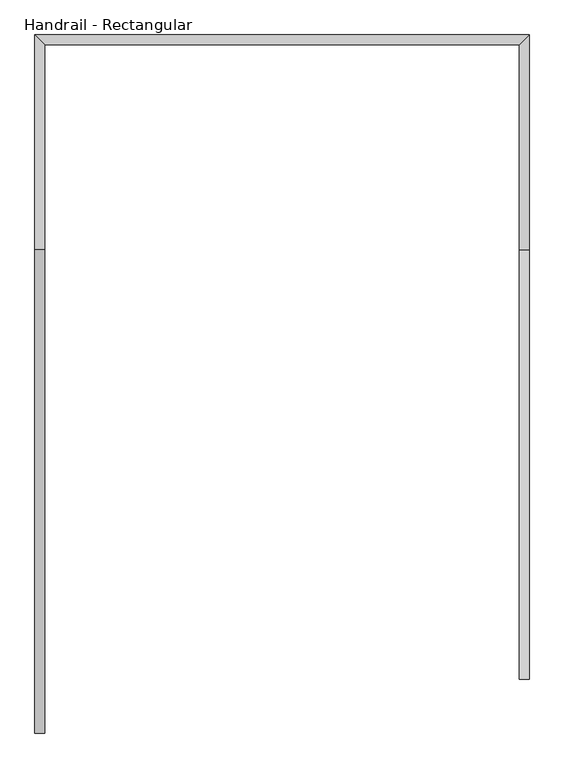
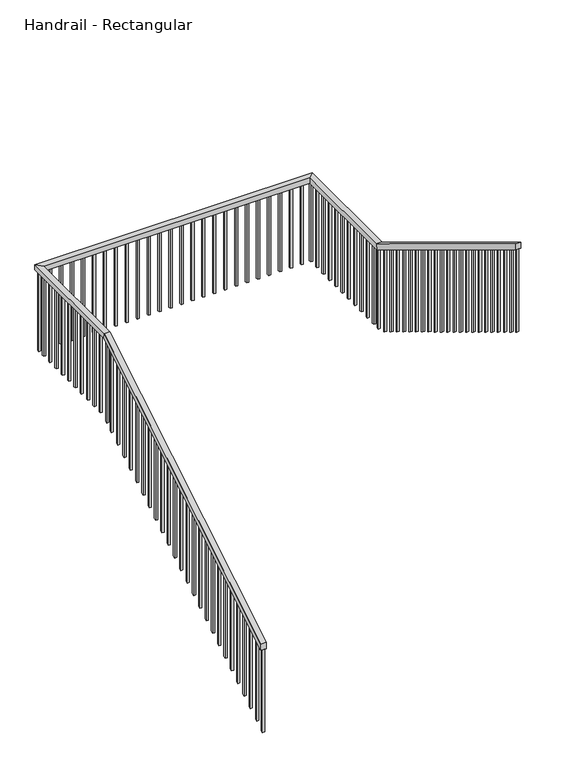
"""IFC4 building model written with IfcOpenShell, lengths in millimetres: railing geometry, Handrail - Rectangular."""

from ifc_helpers import new_model, si_unit, frame, origin, place, context, project, spatial, polyline, outline, extrude, faceted_brep, source, transform, mapped, element, save


def handrail_rectangular_35e503dc(model_context):
    return source(origin(), model_context, "Body", "SolidModel", [
        faceted_brep([(-32745.3668129, -12664.4103492, -1964.2666667), (-32745.3668129, -12664.4103492, -2023.6681269), (-32694.5668129, -12664.4103492, -2023.6681269), (-32694.5668129, -12664.4103492, -1964.2666667), (-32694.5668129, -10149.8103492, -440.2666667), (-32745.3668129, -10149.8103492, -440.2666667), (-32694.5668129, -10135.6179398, -491.0666667), (-32745.3668129, -10135.6179398, -491.0666667), (-32694.5668129, -9083.0103492, -440.2666667), (-32745.3668129, -9032.2103492, -440.2666667), (-32694.5668129, -9083.0103492, -491.0666667), (-32745.3668129, -9032.2103492, -491.0666667), (-30222.3187724, -9083.0103492, -440.2666667), (-30171.5187724, -9032.2103492, -440.2666667), (-30222.3187724, -9083.0103492, -491.0666667), (-30171.5187724, -9032.2103492, -491.0666667), (-30222.3187724, -10149.8103492, -440.2666667), (-30171.5187724, -10149.8103492, -440.2666667), (-30222.3187724, -10164.0027586, -491.0666667), (-30171.5187724, -10164.0027586, -491.0666667), (-30171.5187724, -12385.0103492, 914.4), (-30222.3187724, -12385.0103492, 914.4), (-30222.3187724, -12385.0103492, 854.9985397), (-30171.5187724, -12385.0103492, 854.9985397)], [[[0, 1, 2, 3]], [[0, 3, 4, 5]], [[3, 2, 6, 4]], [[2, 1, 7, 6]], [[1, 0, 5, 7]], [[5, 4, 8, 9]], [[4, 6, 10, 8]], [[6, 7, 11, 10]], [[7, 5, 9, 11]], [[9, 8, 12, 13]], [[8, 10, 14, 12]], [[10, 11, 15, 14]], [[11, 9, 13, 15]], [[13, 12, 16, 17]], [[12, 14, 18, 16]], [[14, 15, 19, 18]], [[15, 13, 17, 19]], [[20, 21, 22, 23]], [[17, 16, 21, 20]], [[16, 18, 22, 21]], [[18, 19, 23, 22]], [[19, 17, 20, 23]]]),
        extrude(outline(polyline([(-12273.8853492, 787.6500549), (-12273.8853492, -24.5673062), (-12292.9353492, -13.0218517), (-12292.9353492, 799.1955094), (-12273.8853492, 787.6500549)])), frame((-30206.4437724, 0.0, 0.0), z_axis=(1.0, 0.0, 0.0), x_axis=(0.0, 1.0, 0.0)), (0.0, 0.0, 1.0), 19.05),
        extrude(outline(polyline([(-12172.2853492, 726.0742973), (-12172.2853492, -86.1430638), (-12191.3353492, -74.5976092), (-12191.3353492, 737.6197519), (-12172.2853492, 726.0742973)])), frame((-30206.4437724, 0.0, 0.0), z_axis=(1.0, 0.0, 0.0), x_axis=(0.0, 1.0, 0.0)), (0.0, 0.0, 1.0), 19.05),
        extrude(outline(polyline([(-12070.6853492, 664.4985397), (-12070.6853492, -147.7188214), (-12089.7353492, -136.1733668), (-12089.7353492, 676.0439943), (-12070.6853492, 664.4985397)])), frame((-30206.4437724, 0.0, 0.0), z_axis=(1.0, 0.0, 0.0), x_axis=(0.0, 1.0, 0.0)), (0.0, 0.0, 1.0), 19.05),
        extrude(outline(polyline([(-11969.0853492, 602.9227822), (-11969.0853492, -209.2945789), (-11988.1353492, -197.7491244), (-11988.1353492, 614.4682367), (-11969.0853492, 602.9227822)])), frame((-30206.4437724, 0.0, 0.0), z_axis=(1.0, 0.0, 0.0), x_axis=(0.0, 1.0, 0.0)), (0.0, 0.0, 1.0), 19.05),
        extrude(outline(polyline([(-11867.4853492, 541.3470246), (-11867.4853492, -270.8703365), (-11886.5353492, -259.324882), (-11886.5353492, 552.8924791), (-11867.4853492, 541.3470246)])), frame((-30206.4437724, 0.0, 0.0), z_axis=(1.0, 0.0, 0.0), x_axis=(0.0, 1.0, 0.0)), (0.0, 0.0, 1.0), 19.05),
        extrude(outline(polyline([(-11765.8853492, 479.771267), (-11765.8853492, -332.4460941), (-11784.9353492, -320.9006396), (-11784.9353492, 491.3167216), (-11765.8853492, 479.771267)])), frame((-30206.4437724, 0.0, 0.0), z_axis=(1.0, 0.0, 0.0), x_axis=(0.0, 1.0, 0.0)), (0.0, 0.0, 1.0), 19.05),
        extrude(outline(polyline([(-11664.2853492, 418.1955094), (-11664.2853492, -394.0218517), (-11683.3353492, -382.4763971), (-11683.3353492, 429.740964), (-11664.2853492, 418.1955094)])), frame((-30206.4437724, 0.0, 0.0), z_axis=(1.0, 0.0, 0.0), x_axis=(0.0, 1.0, 0.0)), (0.0, 0.0, 1.0), 19.05),
        extrude(outline(polyline([(-11562.6853492, 356.6197519), (-11562.6853492, -455.5976092), (-11581.7353492, -444.0521547), (-11581.7353492, 368.1652064), (-11562.6853492, 356.6197519)])), frame((-30206.4437724, 0.0, 0.0), z_axis=(1.0, 0.0, 0.0), x_axis=(0.0, 1.0, 0.0)), (0.0, 0.0, 1.0), 19.05),
        extrude(outline(polyline([(-11461.0853492, 295.0439943), (-11461.0853492, -517.1733668), (-11480.1353492, -505.6279123), (-11480.1353492, 306.5894488), (-11461.0853492, 295.0439943)])), frame((-30206.4437724, 0.0, 0.0), z_axis=(1.0, 0.0, 0.0), x_axis=(0.0, 1.0, 0.0)), (0.0, 0.0, 1.0), 19.05),
        extrude(outline(polyline([(-11359.4853492, 233.4682367), (-11359.4853492, -578.7491244), (-11378.5353492, -567.2036699), (-11378.5353492, 245.0136913), (-11359.4853492, 233.4682367)])), frame((-30206.4437724, 0.0, 0.0), z_axis=(1.0, 0.0, 0.0), x_axis=(0.0, 1.0, 0.0)), (0.0, 0.0, 1.0), 19.05),
        extrude(outline(polyline([(-11257.8853492, 171.8924791), (-11257.8853492, -640.324882), (-11276.9353492, -628.7794274), (-11276.9353492, 183.4379337), (-11257.8853492, 171.8924791)])), frame((-30206.4437724, 0.0, 0.0), z_axis=(1.0, 0.0, 0.0), x_axis=(0.0, 1.0, 0.0)), (0.0, 0.0, 1.0), 19.05),
        extrude(outline(polyline([(-11156.2853492, 110.3167216), (-11156.2853492, -701.9006396), (-11175.3353492, -690.355185), (-11175.3353492, 121.8621761), (-11156.2853492, 110.3167216)])), frame((-30206.4437724, 0.0, 0.0), z_axis=(1.0, 0.0, 0.0), x_axis=(0.0, 1.0, 0.0)), (0.0, 0.0, 1.0), 19.05),
        extrude(outline(polyline([(-11054.6853492, 48.740964), (-11054.6853492, -763.4763971), (-11073.7353492, -751.9309426), (-11073.7353492, 60.2864185), (-11054.6853492, 48.740964)])), frame((-30206.4437724, 0.0, 0.0), z_axis=(1.0, 0.0, 0.0), x_axis=(0.0, 1.0, 0.0)), (0.0, 0.0, 1.0), 19.05),
        extrude(outline(polyline([(-10953.0853492, -12.8347936), (-10953.0853492, -825.0521547), (-10972.1353492, -813.5067002), (-10972.1353492, -1.289339), (-10953.0853492, -12.8347936)])), frame((-30206.4437724, 0.0, 0.0), z_axis=(1.0, 0.0, 0.0), x_axis=(0.0, 1.0, 0.0)), (0.0, 0.0, 1.0), 19.05),
        extrude(outline(polyline([(-10851.4853492, -74.4105512), (-10851.4853492, -886.6279123), (-10870.5353492, -875.0824577), (-10870.5353492, -62.8650966), (-10851.4853492, -74.4105512)])), frame((-30206.4437724, 0.0, 0.0), z_axis=(1.0, 0.0, 0.0), x_axis=(0.0, 1.0, 0.0)), (0.0, 0.0, 1.0), 19.05),
        extrude(outline(polyline([(-10749.8853492, -135.9863087), (-10749.8853492, -948.2036699), (-10768.9353492, -936.6582153), (-10768.9353492, -124.4408542), (-10749.8853492, -135.9863087)])), frame((-30206.4437724, 0.0, 0.0), z_axis=(1.0, 0.0, 0.0), x_axis=(0.0, 1.0, 0.0)), (0.0, 0.0, 1.0), 19.05),
        extrude(outline(polyline([(-10648.2853492, -197.5620663), (-10648.2853492, -1009.7794274), (-10667.3353492, -998.2339729), (-10667.3353492, -186.0166118), (-10648.2853492, -197.5620663)])), frame((-30206.4437724, 0.0, 0.0), z_axis=(1.0, 0.0, 0.0), x_axis=(0.0, 1.0, 0.0)), (0.0, 0.0, 1.0), 19.05),
        extrude(outline(polyline([(-10546.6853492, -259.1378239), (-10546.6853492, -1071.355185), (-10565.7353492, -1059.8097305), (-10565.7353492, -247.5923693), (-10546.6853492, -259.1378239)])), frame((-30206.4437724, 0.0, 0.0), z_axis=(1.0, 0.0, 0.0), x_axis=(0.0, 1.0, 0.0)), (0.0, 0.0, 1.0), 19.05),
        extrude(outline(polyline([(-10445.0853492, -320.7135815), (-10445.0853492, -1132.9309426), (-10464.1353492, -1121.385488), (-10464.1353492, -309.1681269), (-10445.0853492, -320.7135815)])), frame((-30206.4437724, 0.0, 0.0), z_axis=(1.0, 0.0, 0.0), x_axis=(0.0, 1.0, 0.0)), (0.0, 0.0, 1.0), 19.05),
        extrude(outline(polyline([(-10343.4853492, -382.289339), (-10343.4853492, -1194.5067002), (-10362.5353492, -1182.9612456), (-10362.5353492, -370.7438845), (-10343.4853492, -382.289339)])), frame((-30206.4437724, 0.0, 0.0), z_axis=(1.0, 0.0, 0.0), x_axis=(0.0, 1.0, 0.0)), (0.0, 0.0, 1.0), 19.05),
        extrude(outline(polyline([(-10241.8853492, -443.8650966), (-10241.8853492, -1256.0824577), (-10260.9353492, -1244.5370032), (-10260.9353492, -432.3196421), (-10241.8853492, -443.8650966)])), frame((-30206.4437724, 0.0, 0.0), z_axis=(1.0, 0.0, 0.0), x_axis=(0.0, 1.0, 0.0)), (0.0, 0.0, 1.0), 19.05),
        extrude(outline(polyline([(-30187.3937724, -10064.0853492), (-30187.3937724, -10083.1353492), (-30206.4437724, -10083.1353492), (-30206.4437724, -10064.0853492), (-30187.3937724, -10064.0853492)])), frame((0.0, 0.0, -1278.4666667), z_axis=(0.0, 0.0, 1.0), x_axis=(1.0, 0.0, 0.0)), (0.0, 0.0, 1.0), 787.4),
        extrude(outline(polyline([(-30187.3937724, -9962.4853492), (-30187.3937724, -9981.5353492), (-30206.4437724, -9981.5353492), (-30206.4437724, -9962.4853492), (-30187.3937724, -9962.4853492)])), frame((0.0, 0.0, -1278.4666667), z_axis=(0.0, 0.0, 1.0), x_axis=(1.0, 0.0, 0.0)), (0.0, 0.0, 1.0), 787.4),
        extrude(outline(polyline([(-30187.3937724, -9860.8853492), (-30187.3937724, -9879.9353492), (-30206.4437724, -9879.9353492), (-30206.4437724, -9860.8853492), (-30187.3937724, -9860.8853492)])), frame((0.0, 0.0, -1278.4666667), z_axis=(0.0, 0.0, 1.0), x_axis=(1.0, 0.0, 0.0)), (0.0, 0.0, 1.0), 787.4),
        extrude(outline(polyline([(-30187.3937724, -9759.2853492), (-30187.3937724, -9778.3353492), (-30206.4437724, -9778.3353492), (-30206.4437724, -9759.2853492), (-30187.3937724, -9759.2853492)])), frame((0.0, 0.0, -1278.4666667), z_axis=(0.0, 0.0, 1.0), x_axis=(1.0, 0.0, 0.0)), (0.0, 0.0, 1.0), 787.4),
        extrude(outline(polyline([(-30187.3937724, -9657.6853492), (-30187.3937724, -9676.7353492), (-30206.4437724, -9676.7353492), (-30206.4437724, -9657.6853492), (-30187.3937724, -9657.6853492)])), frame((0.0, 0.0, -1278.4666667), z_axis=(0.0, 0.0, 1.0), x_axis=(1.0, 0.0, 0.0)), (0.0, 0.0, 1.0), 787.4),
        extrude(outline(polyline([(-30187.3937724, -9556.0853492), (-30187.3937724, -9575.1353492), (-30206.4437724, -9575.1353492), (-30206.4437724, -9556.0853492), (-30187.3937724, -9556.0853492)])), frame((0.0, 0.0, -1278.4666667), z_axis=(0.0, 0.0, 1.0), x_axis=(1.0, 0.0, 0.0)), (0.0, 0.0, 1.0), 787.4),
        extrude(outline(polyline([(-30187.3937724, -9454.4853492), (-30187.3937724, -9473.5353492), (-30206.4437724, -9473.5353492), (-30206.4437724, -9454.4853492), (-30187.3937724, -9454.4853492)])), frame((0.0, 0.0, -1278.4666667), z_axis=(0.0, 0.0, 1.0), x_axis=(1.0, 0.0, 0.0)), (0.0, 0.0, 1.0), 787.4),
        extrude(outline(polyline([(-30187.3937724, -9352.8853492), (-30187.3937724, -9371.9353492), (-30206.4437724, -9371.9353492), (-30206.4437724, -9352.8853492), (-30187.3937724, -9352.8853492)])), frame((0.0, 0.0, -1278.4666667), z_axis=(0.0, 0.0, 1.0), x_axis=(1.0, 0.0, 0.0)), (0.0, 0.0, 1.0), 787.4),
        extrude(outline(polyline([(-30187.3937724, -9251.2853492), (-30187.3937724, -9270.3353492), (-30206.4437724, -9270.3353492), (-30206.4437724, -9251.2853492), (-30187.3937724, -9251.2853492)])), frame((0.0, 0.0, -1278.4666667), z_axis=(0.0, 0.0, 1.0), x_axis=(1.0, 0.0, 0.0)), (0.0, 0.0, 1.0), 787.4),
        extrude(outline(polyline([(-30187.3937724, -9149.6853492), (-30187.3937724, -9168.7353492), (-30206.4437724, -9168.7353492), (-30206.4437724, -9149.6853492), (-30187.3937724, -9149.6853492)])), frame((0.0, 0.0, -1278.4666667), z_axis=(0.0, 0.0, 1.0), x_axis=(1.0, 0.0, 0.0)), (0.0, 0.0, 1.0), 787.4),
        extrude(outline(polyline([(-30291.0918129, -9048.0853492), (-30272.0418129, -9048.0853492), (-30272.0418129, -9067.1353492), (-30291.0918129, -9067.1353492), (-30291.0918129, -9048.0853492)])), frame((0.0, 0.0, -1278.4666667), z_axis=(0.0, 0.0, 1.0), x_axis=(1.0, 0.0, 0.0)), (0.0, 0.0, 1.0), 787.4),
        extrude(outline(polyline([(-30392.6918129, -9048.0853492), (-30373.6418129, -9048.0853492), (-30373.6418129, -9067.1353492), (-30392.6918129, -9067.1353492), (-30392.6918129, -9048.0853492)])), frame((0.0, 0.0, -1278.4666667), z_axis=(0.0, 0.0, 1.0), x_axis=(1.0, 0.0, 0.0)), (0.0, 0.0, 1.0), 787.4),
        extrude(outline(polyline([(-30494.2918129, -9048.0853492), (-30475.2418129, -9048.0853492), (-30475.2418129, -9067.1353492), (-30494.2918129, -9067.1353492), (-30494.2918129, -9048.0853492)])), frame((0.0, 0.0, -1278.4666667), z_axis=(0.0, 0.0, 1.0), x_axis=(1.0, 0.0, 0.0)), (0.0, 0.0, 1.0), 787.4),
        extrude(outline(polyline([(-30595.8918129, -9048.0853492), (-30576.8418129, -9048.0853492), (-30576.8418129, -9067.1353492), (-30595.8918129, -9067.1353492), (-30595.8918129, -9048.0853492)])), frame((0.0, 0.0, -1278.4666667), z_axis=(0.0, 0.0, 1.0), x_axis=(1.0, 0.0, 0.0)), (0.0, 0.0, 1.0), 787.4),
        extrude(outline(polyline([(-30697.4918129, -9048.0853492), (-30678.4418129, -9048.0853492), (-30678.4418129, -9067.1353492), (-30697.4918129, -9067.1353492), (-30697.4918129, -9048.0853492)])), frame((0.0, 0.0, -1278.4666667), z_axis=(0.0, 0.0, 1.0), x_axis=(1.0, 0.0, 0.0)), (0.0, 0.0, 1.0), 787.4),
        extrude(outline(polyline([(-30799.0918129, -9048.0853492), (-30780.0418129, -9048.0853492), (-30780.0418129, -9067.1353492), (-30799.0918129, -9067.1353492), (-30799.0918129, -9048.0853492)])), frame((0.0, 0.0, -1278.4666667), z_axis=(0.0, 0.0, 1.0), x_axis=(1.0, 0.0, 0.0)), (0.0, 0.0, 1.0), 787.4),
        extrude(outline(polyline([(-30900.6918129, -9048.0853492), (-30881.6418129, -9048.0853492), (-30881.6418129, -9067.1353492), (-30900.6918129, -9067.1353492), (-30900.6918129, -9048.0853492)])), frame((0.0, 0.0, -1278.4666667), z_axis=(0.0, 0.0, 1.0), x_axis=(1.0, 0.0, 0.0)), (0.0, 0.0, 1.0), 787.4),
        extrude(outline(polyline([(-31002.2918129, -9048.0853492), (-30983.2418129, -9048.0853492), (-30983.2418129, -9067.1353492), (-31002.2918129, -9067.1353492), (-31002.2918129, -9048.0853492)])), frame((0.0, 0.0, -1278.4666667), z_axis=(0.0, 0.0, 1.0), x_axis=(1.0, 0.0, 0.0)), (0.0, 0.0, 1.0), 787.4),
        extrude(outline(polyline([(-31103.8918129, -9048.0853492), (-31084.8418129, -9048.0853492), (-31084.8418129, -9067.1353492), (-31103.8918129, -9067.1353492), (-31103.8918129, -9048.0853492)])), frame((0.0, 0.0, -1278.4666667), z_axis=(0.0, 0.0, 1.0), x_axis=(1.0, 0.0, 0.0)), (0.0, 0.0, 1.0), 787.4),
        extrude(outline(polyline([(-31205.4918129, -9048.0853492), (-31186.4418129, -9048.0853492), (-31186.4418129, -9067.1353492), (-31205.4918129, -9067.1353492), (-31205.4918129, -9048.0853492)])), frame((0.0, 0.0, -1278.4666667), z_axis=(0.0, 0.0, 1.0), x_axis=(1.0, 0.0, 0.0)), (0.0, 0.0, 1.0), 787.4),
        extrude(outline(polyline([(-31307.0918129, -9048.0853492), (-31288.0418129, -9048.0853492), (-31288.0418129, -9067.1353492), (-31307.0918129, -9067.1353492), (-31307.0918129, -9048.0853492)])), frame((0.0, 0.0, -1278.4666667), z_axis=(0.0, 0.0, 1.0), x_axis=(1.0, 0.0, 0.0)), (0.0, 0.0, 1.0), 787.4),
        extrude(outline(polyline([(-31408.6918129, -9048.0853492), (-31389.6418129, -9048.0853492), (-31389.6418129, -9067.1353492), (-31408.6918129, -9067.1353492), (-31408.6918129, -9048.0853492)])), frame((0.0, 0.0, -1278.4666667), z_axis=(0.0, 0.0, 1.0), x_axis=(1.0, 0.0, 0.0)), (0.0, 0.0, 1.0), 787.4),
        extrude(outline(polyline([(-31510.2918129, -9048.0853492), (-31491.2418129, -9048.0853492), (-31491.2418129, -9067.1353492), (-31510.2918129, -9067.1353492), (-31510.2918129, -9048.0853492)])), frame((0.0, 0.0, -1278.4666667), z_axis=(0.0, 0.0, 1.0), x_axis=(1.0, 0.0, 0.0)), (0.0, 0.0, 1.0), 787.4),
        extrude(outline(polyline([(-31611.8918129, -9048.0853492), (-31592.8418129, -9048.0853492), (-31592.8418129, -9067.1353492), (-31611.8918129, -9067.1353492), (-31611.8918129, -9048.0853492)])), frame((0.0, 0.0, -1278.4666667), z_axis=(0.0, 0.0, 1.0), x_axis=(1.0, 0.0, 0.0)), (0.0, 0.0, 1.0), 787.4),
        extrude(outline(polyline([(-31713.4918129, -9048.0853492), (-31694.4418129, -9048.0853492), (-31694.4418129, -9067.1353492), (-31713.4918129, -9067.1353492), (-31713.4918129, -9048.0853492)])), frame((0.0, 0.0, -1278.4666667), z_axis=(0.0, 0.0, 1.0), x_axis=(1.0, 0.0, 0.0)), (0.0, 0.0, 1.0), 787.4),
        extrude(outline(polyline([(-31815.0918129, -9048.0853492), (-31796.0418129, -9048.0853492), (-31796.0418129, -9067.1353492), (-31815.0918129, -9067.1353492), (-31815.0918129, -9048.0853492)])), frame((0.0, 0.0, -1278.4666667), z_axis=(0.0, 0.0, 1.0), x_axis=(1.0, 0.0, 0.0)), (0.0, 0.0, 1.0), 787.4),
        extrude(outline(polyline([(-31916.6918129, -9048.0853492), (-31897.6418129, -9048.0853492), (-31897.6418129, -9067.1353492), (-31916.6918129, -9067.1353492), (-31916.6918129, -9048.0853492)])), frame((0.0, 0.0, -1278.4666667), z_axis=(0.0, 0.0, 1.0), x_axis=(1.0, 0.0, 0.0)), (0.0, 0.0, 1.0), 787.4),
        extrude(outline(polyline([(-32018.2918129, -9048.0853492), (-31999.2418129, -9048.0853492), (-31999.2418129, -9067.1353492), (-32018.2918129, -9067.1353492), (-32018.2918129, -9048.0853492)])), frame((0.0, 0.0, -1278.4666667), z_axis=(0.0, 0.0, 1.0), x_axis=(1.0, 0.0, 0.0)), (0.0, 0.0, 1.0), 787.4),
        extrude(outline(polyline([(-32119.8918129, -9048.0853492), (-32100.8418129, -9048.0853492), (-32100.8418129, -9067.1353492), (-32119.8918129, -9067.1353492), (-32119.8918129, -9048.0853492)])), frame((0.0, 0.0, -1278.4666667), z_axis=(0.0, 0.0, 1.0), x_axis=(1.0, 0.0, 0.0)), (0.0, 0.0, 1.0), 787.4),
        extrude(outline(polyline([(-32221.4918129, -9048.0853492), (-32202.4418129, -9048.0853492), (-32202.4418129, -9067.1353492), (-32221.4918129, -9067.1353492), (-32221.4918129, -9048.0853492)])), frame((0.0, 0.0, -1278.4666667), z_axis=(0.0, 0.0, 1.0), x_axis=(1.0, 0.0, 0.0)), (0.0, 0.0, 1.0), 787.4),
        extrude(outline(polyline([(-32323.0918129, -9048.0853492), (-32304.0418129, -9048.0853492), (-32304.0418129, -9067.1353492), (-32323.0918129, -9067.1353492), (-32323.0918129, -9048.0853492)])), frame((0.0, 0.0, -1278.4666667), z_axis=(0.0, 0.0, 1.0), x_axis=(1.0, 0.0, 0.0)), (0.0, 0.0, 1.0), 787.4),
        extrude(outline(polyline([(-32424.6918129, -9048.0853492), (-32405.6418129, -9048.0853492), (-32405.6418129, -9067.1353492), (-32424.6918129, -9067.1353492), (-32424.6918129, -9048.0853492)])), frame((0.0, 0.0, -1278.4666667), z_axis=(0.0, 0.0, 1.0), x_axis=(1.0, 0.0, 0.0)), (0.0, 0.0, 1.0), 787.4),
        extrude(outline(polyline([(-32526.2918129, -9048.0853492), (-32507.2418129, -9048.0853492), (-32507.2418129, -9067.1353492), (-32526.2918129, -9067.1353492), (-32526.2918129, -9048.0853492)])), frame((0.0, 0.0, -1278.4666667), z_axis=(0.0, 0.0, 1.0), x_axis=(1.0, 0.0, 0.0)), (0.0, 0.0, 1.0), 787.4),
        extrude(outline(polyline([(-32627.8918129, -9048.0853492), (-32608.8418129, -9048.0853492), (-32608.8418129, -9067.1353492), (-32627.8918129, -9067.1353492), (-32627.8918129, -9048.0853492)])), frame((0.0, 0.0, -1278.4666667), z_axis=(0.0, 0.0, 1.0), x_axis=(1.0, 0.0, 0.0)), (0.0, 0.0, 1.0), 787.4),
        extrude(outline(polyline([(-32729.4918129, -9143.3353492), (-32729.4918129, -9124.2853492), (-32710.4418129, -9124.2853492), (-32710.4418129, -9143.3353492), (-32729.4918129, -9143.3353492)])), frame((0.0, 0.0, -1278.4666667), z_axis=(0.0, 0.0, 1.0), x_axis=(1.0, 0.0, 0.0)), (0.0, 0.0, 1.0), 787.4),
        extrude(outline(polyline([(-32729.4918129, -9244.9353492), (-32729.4918129, -9225.8853492), (-32710.4418129, -9225.8853492), (-32710.4418129, -9244.9353492), (-32729.4918129, -9244.9353492)])), frame((0.0, 0.0, -1278.4666667), z_axis=(0.0, 0.0, 1.0), x_axis=(1.0, 0.0, 0.0)), (0.0, 0.0, 1.0), 787.4),
        extrude(outline(polyline([(-32729.4918129, -9346.5353492), (-32729.4918129, -9327.4853492), (-32710.4418129, -9327.4853492), (-32710.4418129, -9346.5353492), (-32729.4918129, -9346.5353492)])), frame((0.0, 0.0, -1278.4666667), z_axis=(0.0, 0.0, 1.0), x_axis=(1.0, 0.0, 0.0)), (0.0, 0.0, 1.0), 787.4),
        extrude(outline(polyline([(-32729.4918129, -9448.1353492), (-32729.4918129, -9429.0853492), (-32710.4418129, -9429.0853492), (-32710.4418129, -9448.1353492), (-32729.4918129, -9448.1353492)])), frame((0.0, 0.0, -1278.4666667), z_axis=(0.0, 0.0, 1.0), x_axis=(1.0, 0.0, 0.0)), (0.0, 0.0, 1.0), 787.4),
        extrude(outline(polyline([(-32729.4918129, -9549.7353492), (-32729.4918129, -9530.6853492), (-32710.4418129, -9530.6853492), (-32710.4418129, -9549.7353492), (-32729.4918129, -9549.7353492)])), frame((0.0, 0.0, -1278.4666667), z_axis=(0.0, 0.0, 1.0), x_axis=(1.0, 0.0, 0.0)), (0.0, 0.0, 1.0), 787.4),
        extrude(outline(polyline([(-32729.4918129, -9651.3353492), (-32729.4918129, -9632.2853492), (-32710.4418129, -9632.2853492), (-32710.4418129, -9651.3353492), (-32729.4918129, -9651.3353492)])), frame((0.0, 0.0, -1278.4666667), z_axis=(0.0, 0.0, 1.0), x_axis=(1.0, 0.0, 0.0)), (0.0, 0.0, 1.0), 787.4),
        extrude(outline(polyline([(-32729.4918129, -9752.9353492), (-32729.4918129, -9733.8853492), (-32710.4418129, -9733.8853492), (-32710.4418129, -9752.9353492), (-32729.4918129, -9752.9353492)])), frame((0.0, 0.0, -1278.4666667), z_axis=(0.0, 0.0, 1.0), x_axis=(1.0, 0.0, 0.0)), (0.0, 0.0, 1.0), 787.4),
        extrude(outline(polyline([(-32729.4918129, -9854.5353492), (-32729.4918129, -9835.4853492), (-32710.4418129, -9835.4853492), (-32710.4418129, -9854.5353492), (-32729.4918129, -9854.5353492)])), frame((0.0, 0.0, -1278.4666667), z_axis=(0.0, 0.0, 1.0), x_axis=(1.0, 0.0, 0.0)), (0.0, 0.0, 1.0), 787.4),
        extrude(outline(polyline([(-32729.4918129, -9956.1353492), (-32729.4918129, -9937.0853492), (-32710.4418129, -9937.0853492), (-32710.4418129, -9956.1353492), (-32729.4918129, -9956.1353492)])), frame((0.0, 0.0, -1278.4666667), z_axis=(0.0, 0.0, 1.0), x_axis=(1.0, 0.0, 0.0)), (0.0, 0.0, 1.0), 787.4),
        extrude(outline(polyline([(-32729.4918129, -10057.7353492), (-32729.4918129, -10038.6853492), (-32710.4418129, -10038.6853492), (-32710.4418129, -10057.7353492), (-32729.4918129, -10057.7353492)])), frame((0.0, 0.0, -1278.4666667), z_axis=(0.0, 0.0, 1.0), x_axis=(1.0, 0.0, 0.0)), (0.0, 0.0, 1.0), 787.4),
        extrude(outline(polyline([(-10216.4853492, -540.0772178), (-10216.4853492, -1352.2945789), (-10235.5353492, -1363.8400335), (-10235.5353492, -551.6226724), (-10216.4853492, -540.0772178)])), frame((-32729.4918129, 0.0, 0.0), z_axis=(1.0, 0.0, 0.0), x_axis=(0.0, 1.0, 0.0)), (0.0, 0.0, 1.0), 19.05),
        extrude(outline(polyline([(-10318.0853492, -601.6529754), (-10318.0853492, -1413.8703365), (-10337.1353492, -1425.4157911), (-10337.1353492, -613.19843), (-10318.0853492, -601.6529754)])), frame((-32729.4918129, 0.0, 0.0), z_axis=(1.0, 0.0, 0.0), x_axis=(0.0, 1.0, 0.0)), (0.0, 0.0, 1.0), 19.05),
        extrude(outline(polyline([(-10419.6853492, -663.228733), (-10419.6853492, -1475.4460941), (-10438.7353492, -1486.9915486), (-10438.7353492, -674.7741875), (-10419.6853492, -663.228733)])), frame((-32729.4918129, 0.0, 0.0), z_axis=(1.0, 0.0, 0.0), x_axis=(0.0, 1.0, 0.0)), (0.0, 0.0, 1.0), 19.05),
        extrude(outline(polyline([(-10521.2853492, -724.8044906), (-10521.2853492, -1537.0218517), (-10540.3353492, -1548.5673062), (-10540.3353492, -736.3499451), (-10521.2853492, -724.8044906)])), frame((-32729.4918129, 0.0, 0.0), z_axis=(1.0, 0.0, 0.0), x_axis=(0.0, 1.0, 0.0)), (0.0, 0.0, 1.0), 19.05),
        extrude(outline(polyline([(-10622.8853492, -786.3802481), (-10622.8853492, -1598.5976092), (-10641.9353492, -1610.1430638), (-10641.9353492, -797.9257027), (-10622.8853492, -786.3802481)])), frame((-32729.4918129, 0.0, 0.0), z_axis=(1.0, 0.0, 0.0), x_axis=(0.0, 1.0, 0.0)), (0.0, 0.0, 1.0), 19.05),
        extrude(outline(polyline([(-10724.4853492, -847.9560057), (-10724.4853492, -1660.1733668), (-10743.5353492, -1671.7188214), (-10743.5353492, -859.5014603), (-10724.4853492, -847.9560057)])), frame((-32729.4918129, 0.0, 0.0), z_axis=(1.0, 0.0, 0.0), x_axis=(0.0, 1.0, 0.0)), (0.0, 0.0, 1.0), 19.05),
        extrude(outline(polyline([(-10826.0853492, -909.5317633), (-10826.0853492, -1721.7491244), (-10845.1353492, -1733.2945789), (-10845.1353492, -921.0772178), (-10826.0853492, -909.5317633)])), frame((-32729.4918129, 0.0, 0.0), z_axis=(1.0, 0.0, 0.0), x_axis=(0.0, 1.0, 0.0)), (0.0, 0.0, 1.0), 19.05),
        extrude(outline(polyline([(-10927.6853492, -971.1075209), (-10927.6853492, -1783.324882), (-10946.7353492, -1794.8703365), (-10946.7353492, -982.6529754), (-10927.6853492, -971.1075209)])), frame((-32729.4918129, 0.0, 0.0), z_axis=(1.0, 0.0, 0.0), x_axis=(0.0, 1.0, 0.0)), (0.0, 0.0, 1.0), 19.05),
        extrude(outline(polyline([(-11029.2853492, -1032.6832784), (-11029.2853492, -1844.9006396), (-11048.3353492, -1856.4460941), (-11048.3353492, -1044.228733), (-11029.2853492, -1032.6832784)])), frame((-32729.4918129, 0.0, 0.0), z_axis=(1.0, 0.0, 0.0), x_axis=(0.0, 1.0, 0.0)), (0.0, 0.0, 1.0), 19.05),
        extrude(outline(polyline([(-11130.8853492, -1094.259036), (-11130.8853492, -1906.4763971), (-11149.9353492, -1918.0218517), (-11149.9353492, -1105.8044906), (-11130.8853492, -1094.259036)])), frame((-32729.4918129, 0.0, 0.0), z_axis=(1.0, 0.0, 0.0), x_axis=(0.0, 1.0, 0.0)), (0.0, 0.0, 1.0), 19.05),
        extrude(outline(polyline([(-11232.4853492, -1155.8347936), (-11232.4853492, -1968.0521547), (-11251.5353492, -1979.5976092), (-11251.5353492, -1167.3802481), (-11232.4853492, -1155.8347936)])), frame((-32729.4918129, 0.0, 0.0), z_axis=(1.0, 0.0, 0.0), x_axis=(0.0, 1.0, 0.0)), (0.0, 0.0, 1.0), 19.05),
        extrude(outline(polyline([(-11334.0853492, -1217.4105512), (-11334.0853492, -2029.6279123), (-11353.1353492, -2041.1733668), (-11353.1353492, -1228.9560057), (-11334.0853492, -1217.4105512)])), frame((-32729.4918129, 0.0, 0.0), z_axis=(1.0, 0.0, 0.0), x_axis=(0.0, 1.0, 0.0)), (0.0, 0.0, 1.0), 19.05),
        extrude(outline(polyline([(-11435.6853492, -1278.9863087), (-11435.6853492, -2091.2036699), (-11454.7353492, -2102.7491244), (-11454.7353492, -1290.5317633), (-11435.6853492, -1278.9863087)])), frame((-32729.4918129, 0.0, 0.0), z_axis=(1.0, 0.0, 0.0), x_axis=(0.0, 1.0, 0.0)), (0.0, 0.0, 1.0), 19.05),
        extrude(outline(polyline([(-11537.2853492, -1340.5620663), (-11537.2853492, -2152.7794274), (-11556.3353492, -2164.324882), (-11556.3353492, -1352.1075209), (-11537.2853492, -1340.5620663)])), frame((-32729.4918129, 0.0, 0.0), z_axis=(1.0, 0.0, 0.0), x_axis=(0.0, 1.0, 0.0)), (0.0, 0.0, 1.0), 19.05),
        extrude(outline(polyline([(-11638.8853492, -1402.1378239), (-11638.8853492, -2214.355185), (-11657.9353492, -2225.9006396), (-11657.9353492, -1413.6832784), (-11638.8853492, -1402.1378239)])), frame((-32729.4918129, 0.0, 0.0), z_axis=(1.0, 0.0, 0.0), x_axis=(0.0, 1.0, 0.0)), (0.0, 0.0, 1.0), 19.05),
        extrude(outline(polyline([(-11740.4853492, -1463.7135815), (-11740.4853492, -2275.9309426), (-11759.5353492, -2287.4763971), (-11759.5353492, -1475.259036), (-11740.4853492, -1463.7135815)])), frame((-32729.4918129, 0.0, 0.0), z_axis=(1.0, 0.0, 0.0), x_axis=(0.0, 1.0, 0.0)), (0.0, 0.0, 1.0), 19.05),
        extrude(outline(polyline([(-11842.0853492, -1525.289339), (-11842.0853492, -2337.5067002), (-11861.1353492, -2349.0521547), (-11861.1353492, -1536.8347936), (-11842.0853492, -1525.289339)])), frame((-32729.4918129, 0.0, 0.0), z_axis=(1.0, 0.0, 0.0), x_axis=(0.0, 1.0, 0.0)), (0.0, 0.0, 1.0), 19.05),
        extrude(outline(polyline([(-11943.6853492, -1586.8650966), (-11943.6853492, -2399.0824577), (-11962.7353492, -2410.6279123), (-11962.7353492, -1598.4105512), (-11943.6853492, -1586.8650966)])), frame((-32729.4918129, 0.0, 0.0), z_axis=(1.0, 0.0, 0.0), x_axis=(0.0, 1.0, 0.0)), (0.0, 0.0, 1.0), 19.05),
        extrude(outline(polyline([(-12045.2853492, -1648.4408542), (-12045.2853492, -2460.6582153), (-12064.3353492, -2472.2036699), (-12064.3353492, -1659.9863087), (-12045.2853492, -1648.4408542)])), frame((-32729.4918129, 0.0, 0.0), z_axis=(1.0, 0.0, 0.0), x_axis=(0.0, 1.0, 0.0)), (0.0, 0.0, 1.0), 19.05),
        extrude(outline(polyline([(-12146.8853492, -1710.0166118), (-12146.8853492, -2522.2339729), (-12165.9353492, -2533.7794274), (-12165.9353492, -1721.5620663), (-12146.8853492, -1710.0166118)])), frame((-32729.4918129, 0.0, 0.0), z_axis=(1.0, 0.0, 0.0), x_axis=(0.0, 1.0, 0.0)), (0.0, 0.0, 1.0), 19.05),
        extrude(outline(polyline([(-12248.4853492, -1771.5923693), (-12248.4853492, -2583.8097305), (-12267.5353492, -2595.355185), (-12267.5353492, -1783.1378239), (-12248.4853492, -1771.5923693)])), frame((-32729.4918129, 0.0, 0.0), z_axis=(1.0, 0.0, 0.0), x_axis=(0.0, 1.0, 0.0)), (0.0, 0.0, 1.0), 19.05),
        extrude(outline(polyline([(-12350.0853492, -1833.1681269), (-12350.0853492, -2645.385488), (-12369.1353492, -2656.9309426), (-12369.1353492, -1844.7135815), (-12350.0853492, -1833.1681269)])), frame((-32729.4918129, 0.0, 0.0), z_axis=(1.0, 0.0, 0.0), x_axis=(0.0, 1.0, 0.0)), (0.0, 0.0, 1.0), 19.05),
        extrude(outline(polyline([(-12451.6853492, -1894.7438845), (-12451.6853492, -2706.9612456), (-12470.7353492, -2718.5067002), (-12470.7353492, -1906.289339), (-12451.6853492, -1894.7438845)])), frame((-32729.4918129, 0.0, 0.0), z_axis=(1.0, 0.0, 0.0), x_axis=(0.0, 1.0, 0.0)), (0.0, 0.0, 1.0), 19.05),
        extrude(outline(polyline([(-12553.2853492, -1956.3196421), (-12553.2853492, -2768.5370032), (-12572.3353492, -2780.0824577), (-12572.3353492, -1967.8650966), (-12553.2853492, -1956.3196421)])), frame((-32729.4918129, 0.0, 0.0), z_axis=(1.0, 0.0, 0.0), x_axis=(0.0, 1.0, 0.0)), (0.0, 0.0, 1.0), 19.05),
        extrude(outline(polyline([(-30187.3937724, -10140.2853492), (-30187.3937724, -10159.3353492), (-30206.4437724, -10159.3353492), (-30206.4437724, -10140.2853492), (-30187.3937724, -10140.2853492)])), frame((0.0, 0.0, -1278.4666667), z_axis=(0.0, 0.0, 1.0), x_axis=(1.0, 0.0, 0.0)), (0.0, 0.0, 1.0), 787.4),
        extrude(outline(polyline([(-30206.4437724, -9048.0853492), (-30187.3937724, -9048.0853492), (-30187.3937724, -9067.1353492), (-30206.4437724, -9067.1353492), (-30206.4437724, -9048.0853492)])), frame((0.0, 0.0, -1278.4666667), z_axis=(0.0, 0.0, 1.0), x_axis=(1.0, 0.0, 0.0)), (0.0, 0.0, 1.0), 787.4),
        extrude(outline(polyline([(-32729.4918129, -9067.1353492), (-32729.4918129, -9048.0853492), (-32710.4418129, -9048.0853492), (-32710.4418129, -9067.1353492), (-32729.4918129, -9067.1353492)])), frame((0.0, 0.0, -1278.4666667), z_axis=(0.0, 0.0, 1.0), x_axis=(1.0, 0.0, 0.0)), (0.0, 0.0, 1.0), 787.4),
        extrude(outline(polyline([(-10140.2853492, -491.0666667), (-10140.2853492, -1306.1127608), (-10159.3353492, -1317.6582153), (-10159.3353492, -491.0666667), (-10140.2853492, -491.0666667)])), frame((-32729.4918129, 0.0, 0.0), z_axis=(1.0, 0.0, 0.0), x_axis=(0.0, 1.0, 0.0)), (0.0, 0.0, 1.0), 19.05),
        extrude(outline(polyline([(-12365.9603492, 843.4530852), (-12365.9603492, 31.2357241), (-12385.0103492, 42.7811786), (-12385.0103492, 854.9985397), (-12365.9603492, 843.4530852)])), frame((-30206.4437724, 0.0, 0.0), z_axis=(1.0, 0.0, 0.0), x_axis=(0.0, 1.0, 0.0)), (0.0, 0.0, 1.0), 19.05),
        extrude(outline(polyline([(-12645.3603492, -2012.1226724), (-12645.3603492, -2824.3400335), (-12664.4103492, -2835.885488), (-12664.4103492, -2023.6681269), (-12645.3603492, -2012.1226724)])), frame((-32729.4918129, 0.0, 0.0), z_axis=(1.0, 0.0, 0.0), x_axis=(0.0, 1.0, 0.0)), (0.0, 0.0, 1.0), 19.05),
    ])


if __name__ == "__main__":
    model = new_model("IFC4")
    model_context = context("Model", 3, world=origin())
    ifc_project = project(units=[si_unit("LENGTHUNIT", "METRE", prefix="MILLI")], contexts=[model_context])
    site = spatial("IfcSite", under=ifc_project)
    building = spatial("IfcBuilding", under=site)
    placement = place(None, origin())
    handrail_rectangular_shape = handrail_rectangular_35e503dc(model_context)
    element("IfcRailing", 1, ObjectType="Handrail - Rectangular", at=placement, inside=building, context=model_context, shape_type="MappedRepresentation", body=[
        mapped(handrail_rectangular_shape, transform((0.0, 0.0, 0.0), x_axis=(1.0, 0.0, 0.0), y_axis=(0.0, 1.0, 0.0), z_axis=(0.0, 0.0, 1.0))),
    ])
    save(model, "model.ifc")
